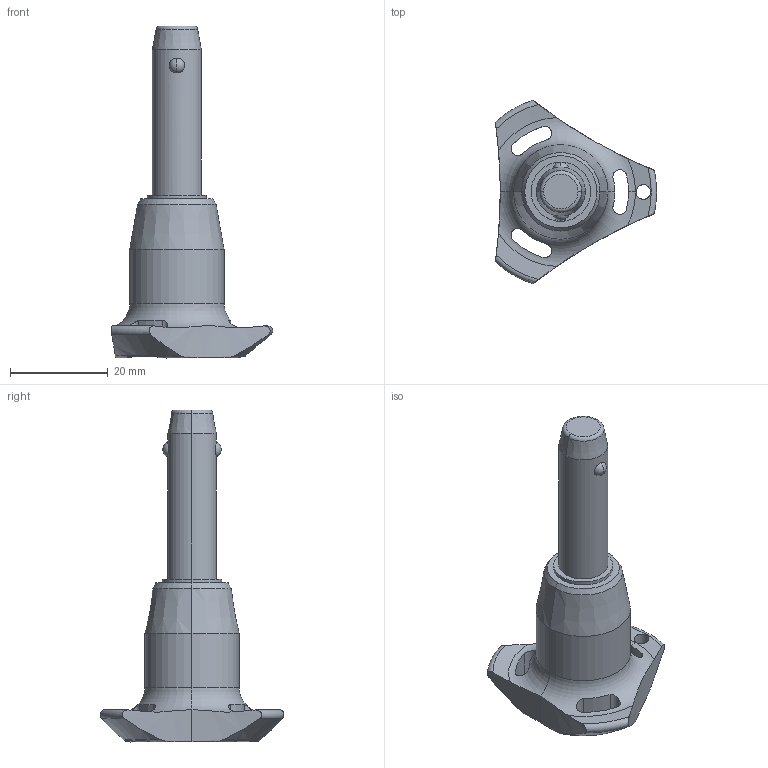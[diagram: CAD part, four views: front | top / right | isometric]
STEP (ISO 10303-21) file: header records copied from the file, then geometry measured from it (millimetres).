
FILE_DESCRIPTION (( 'STEP AP203' ), '1' );
FILE_NAME ('QR1704.M10-025-S.step', '2025-11-12T09:18:39', ( '' ), ( '' ), 'SwSTEP 2.0', 'SolidWorks 2019', '' );
FILE_SCHEMA (( 'CONFIG_CONTROL_DESIGN' ));
Length unit declared in the file: millimetre
Products named in the file (1): QR1704.M10-025-S
Bounding box: 33 x 37.51 x 67.9 mm (x, y, z)
Volume: 13043.5 mm3; surface area: 4949.8 mm2
Topology: 1 solids, 1 shells, 65 faces, 174 edges, 109 vertices
Faces by surface type: cylinder 30, cone 14, torus 11, sphere 6, plane 4
Entity records: 2758 total; most frequent: CARTESIAN_POINT 1085, ORIENTED_EDGE 348, DIRECTION 331, EDGE_CURVE 174, AXIS2_PLACEMENT_3D 147, VERTEX_POINT 109, CIRCLE 81, EDGE_LOOP 71
